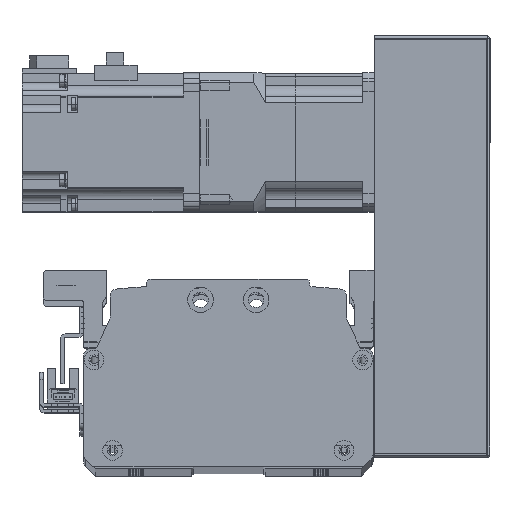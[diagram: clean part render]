
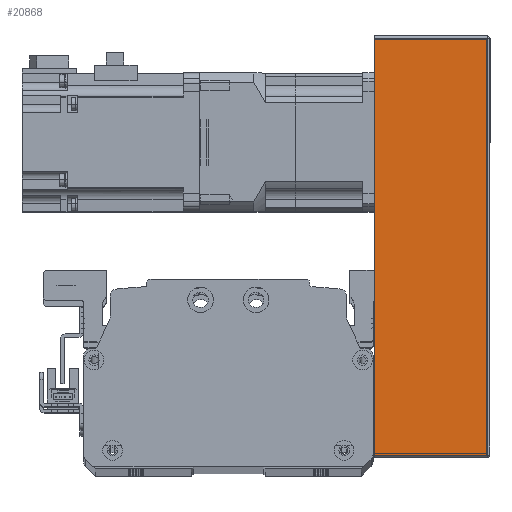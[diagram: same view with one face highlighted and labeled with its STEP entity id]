
A CAD part, top view. The second image highlights one B-rep face of the part: STEP entity #20868.
In plain terms, the highlighted planar face has unit normal (0, 0, 1) as drawn and (0, -1, 0) by its records, which use the part's own axes.
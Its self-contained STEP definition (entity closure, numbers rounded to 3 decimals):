
#563=PLANE('',#22919);
#1778=LINE('',#34056,#3402);
#1792=LINE('',#34108,#3416);
#1794=LINE('',#34116,#3418);
#1795=LINE('',#34118,#3419);
#3402=VECTOR('',#27697,10.);
#3416=VECTOR('',#27757,10.);
#3418=VECTOR('',#27771,10.);
#3419=VECTOR('',#27774,10.);
#5860=FACE_OUTER_BOUND('',#7372,.T.);
#7372=EDGE_LOOP('',(#17340,#17341,#17342,#17343));
#10296=VERTEX_POINT('',#34053);
#10297=VERTEX_POINT('',#34055);
#10311=VERTEX_POINT('',#34103);
#10312=VERTEX_POINT('',#34106);
#12768=EDGE_CURVE('',#10297,#10296,#1778,.T.);
#12796=EDGE_CURVE('',#10311,#10312,#1792,.T.);
#12800=EDGE_CURVE('',#10312,#10297,#1794,.T.);
#12801=EDGE_CURVE('',#10296,#10311,#1795,.T.);
#17340=ORIENTED_EDGE('',*,*,#12796,.T.);
#17341=ORIENTED_EDGE('',*,*,#12800,.T.);
#17342=ORIENTED_EDGE('',*,*,#12768,.T.);
#17343=ORIENTED_EDGE('',*,*,#12801,.T.);
#20868=ADVANCED_FACE('',(#5860),#563,.F.);
#22919=AXIS2_PLACEMENT_3D('',#34117,#27772,#27773);
#27697=DIRECTION('',(1.,0.,0.));
#27757=DIRECTION('',(-1.,0.,0.));
#27771=DIRECTION('',(0.,0.,-1.));
#27772=DIRECTION('center_axis',(0.,1.,0.));
#27773=DIRECTION('ref_axis',(1.,0.,0.));
#27774=DIRECTION('',(0.,0.,1.));
#34053=CARTESIAN_POINT('',(90.,-38.,-25.));
#34055=CARTESIAN_POINT('',(-90.,-38.,-25.));
#34056=CARTESIAN_POINT('',(91.,-38.,-25.));
#34103=CARTESIAN_POINT('',(90.,-38.,24.));
#34106=CARTESIAN_POINT('',(-90.,-38.,24.));
#34108=CARTESIAN_POINT('',(-45.5,-38.,24.));
#34116=CARTESIAN_POINT('',(-90.,-38.,0.));
#34117=CARTESIAN_POINT('Origin',(-91.,-38.,0.));
#34118=CARTESIAN_POINT('',(90.,-38.,0.));
